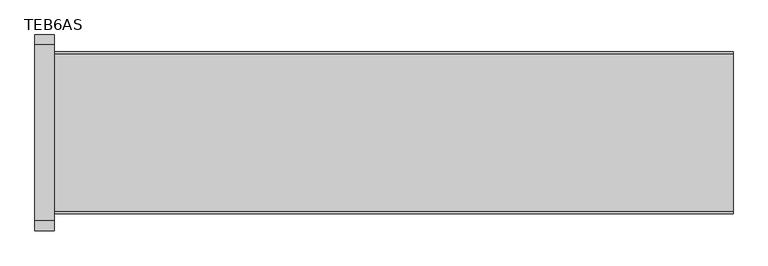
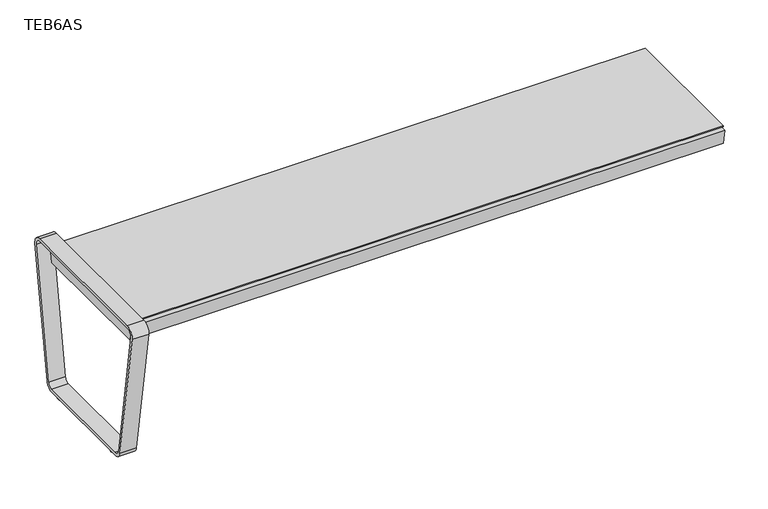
"""IFC4 building model written with IfcOpenShell, lengths in millimetres: furniture geometry, Stance_HC-Terrace-Straight_Bench_Steel : TEB6AS."""

from ifc_helpers import new_model, si_unit, point, frame, frame_2d, origin, origin_with_axes, place, context, project, spatial, polyline, circle_curve, trimmed, segment, composite_curve, outline, extrude, source, transform, mapped, element, save


def teb6as_fcf579d4(model_context):
    return source(origin(), model_context, "Body", "SweptSolid", [
        extrude(outline(polyline([(1455.7375, -50.90414), (1455.7375, -467.25586), (1366.8375, -467.25586), (1366.8375, -50.90414), (1455.7375, -50.90414)])), frame((0.0, 0.0, 432.435), z_axis=(0.0, 0.0, 1.0), x_axis=(1.0, 0.0, 0.0)), (0.0, 0.0, 1.0), 3.175),
        extrude(outline(composite_curve([segment(polyline([(-467.25586, 432.435), (-50.90414, 432.435), (-57.0623598, 397.51)]), True, "CONTINUOUS"), segment(trimmed(circle_curve(frame_2d((-259.08, 1997.8972816)), 1613.0872816), [point((-57.0623598, 397.51))], [point((-461.0976402, 397.51))], False, "CARTESIAN"), True, "CONTINUOUS"), segment(polyline([(-461.0976402, 397.51), (-467.25586, 432.435)]), True, "CONTINUOUS")], self_intersect=False)), frame((1408.8999, 0.0, 0.0), z_axis=(1.0, 0.0, 0.0), x_axis=(0.0, 1.0, 0.0)), (0.0, 0.0, 1.0), 4.7752),
        extrude(outline(polyline([(1219.2, -50.90414), (1219.2, -467.25586), (1130.3, -467.25586), (1130.3, -50.90414), (1219.2, -50.90414)])), frame((0.0, 0.0, 432.435), z_axis=(0.0, 0.0, 1.0), x_axis=(1.0, 0.0, 0.0)), (0.0, 0.0, 1.0), 3.175),
        extrude(outline(composite_curve([segment(polyline([(-467.25586, 432.435), (-50.90414, 432.435), (-57.0623598, 397.51)]), True, "CONTINUOUS"), segment(trimmed(circle_curve(frame_2d((-259.08, 1997.8972816)), 1613.0872816), [point((-57.0623598, 397.51))], [point((-461.0976402, 397.51))], False, "CARTESIAN"), True, "CONTINUOUS"), segment(polyline([(-461.0976402, 397.51), (-467.25586, 432.435)]), True, "CONTINUOUS")], self_intersect=False)), frame((1172.3624, 0.0, 0.0), z_axis=(1.0, 0.0, 0.0), x_axis=(0.0, 1.0, 0.0)), (0.0, 0.0, 1.0), 4.7752),
        extrude(outline(polyline([(982.6625, -50.90414), (982.6625, -467.25586), (893.7625, -467.25586), (893.7625, -50.90414), (982.6625, -50.90414)])), frame((0.0, 0.0, 432.435), z_axis=(0.0, 0.0, 1.0), x_axis=(1.0, 0.0, 0.0)), (0.0, 0.0, 1.0), 3.175),
        extrude(outline(composite_curve([segment(polyline([(-467.25586, 432.435), (-50.90414, 432.435), (-57.0623598, 397.51)]), True, "CONTINUOUS"), segment(trimmed(circle_curve(frame_2d((-259.08, 1997.8972816)), 1613.0872816), [point((-57.0623598, 397.51))], [point((-461.0976402, 397.51))], False, "CARTESIAN"), True, "CONTINUOUS"), segment(polyline([(-461.0976402, 397.51), (-467.25586, 432.435)]), True, "CONTINUOUS")], self_intersect=False)), frame((935.8249, 0.0, 0.0), z_axis=(1.0, 0.0, 0.0), x_axis=(0.0, 1.0, 0.0)), (0.0, 0.0, 1.0), 4.7752),
        extrude(outline(polyline([(746.125, -50.90414), (746.125, -467.25586), (657.225, -467.25586), (657.225, -50.90414), (746.125, -50.90414)])), frame((0.0, 0.0, 432.435), z_axis=(0.0, 0.0, 1.0), x_axis=(1.0, 0.0, 0.0)), (0.0, 0.0, 1.0), 3.175),
        extrude(outline(composite_curve([segment(polyline([(-467.25586, 432.435), (-50.90414, 432.435), (-57.0623598, 397.51)]), True, "CONTINUOUS"), segment(trimmed(circle_curve(frame_2d((-259.08, 1997.8972816)), 1613.0872816), [point((-57.0623598, 397.51))], [point((-461.0976402, 397.51))], False, "CARTESIAN"), True, "CONTINUOUS"), segment(polyline([(-461.0976402, 397.51), (-467.25586, 432.435)]), True, "CONTINUOUS")], self_intersect=False)), frame((699.2874, 0.0, 0.0), z_axis=(1.0, 0.0, 0.0), x_axis=(0.0, 1.0, 0.0)), (0.0, 0.0, 1.0), 4.7752),
        extrude(outline(polyline([(509.5875, -50.90414), (509.5875, -467.25586), (420.6875, -467.25586), (420.6875, -50.90414), (509.5875, -50.90414)])), frame((0.0, 0.0, 432.435), z_axis=(0.0, 0.0, 1.0), x_axis=(1.0, 0.0, 0.0)), (0.0, 0.0, 1.0), 3.175),
        extrude(outline(composite_curve([segment(polyline([(-467.25586, 432.435), (-50.90414, 432.435), (-57.0623598, 397.51)]), True, "CONTINUOUS"), segment(trimmed(circle_curve(frame_2d((-259.08, 1997.8972816)), 1613.0872816), [point((-57.0623598, 397.51))], [point((-461.0976402, 397.51))], False, "CARTESIAN"), True, "CONTINUOUS"), segment(polyline([(-461.0976402, 397.51), (-467.25586, 432.435)]), True, "CONTINUOUS")], self_intersect=False)), frame((462.7499, 0.0, 0.0), z_axis=(1.0, 0.0, 0.0), x_axis=(0.0, 1.0, 0.0)), (0.0, 0.0, 1.0), 4.7752),
        extrude(outline(polyline([(1692.275, -50.90414), (1692.275, -467.25586), (1603.375, -467.25586), (1603.375, -50.90414), (1692.275, -50.90414)])), frame((0.0, 0.0, 432.435), z_axis=(0.0, 0.0, 1.0), x_axis=(1.0, 0.0, 0.0)), (0.0, 0.0, 1.0), 3.175),
        extrude(outline(composite_curve([segment(polyline([(-467.25586, 432.435), (-50.90414, 432.435), (-57.0623598, 397.51)]), True, "CONTINUOUS"), segment(trimmed(circle_curve(frame_2d((-259.08, 1997.8972816)), 1613.0872816), [point((-57.0623598, 397.51))], [point((-461.0976402, 397.51))], False, "CARTESIAN"), True, "CONTINUOUS"), segment(polyline([(-461.0976402, 397.51), (-467.25586, 432.435)]), True, "CONTINUOUS")], self_intersect=False)), frame((1645.4374, 0.0, 0.0), z_axis=(1.0, 0.0, 0.0), x_axis=(0.0, 1.0, 0.0)), (0.0, 0.0, 1.0), 4.7752),
        extrude(outline(polyline([(273.05, -50.90414), (273.05, -467.25586), (184.15, -467.25586), (184.15, -50.90414), (273.05, -50.90414)])), frame((0.0, 0.0, 432.435), z_axis=(0.0, 0.0, 1.0), x_axis=(1.0, 0.0, 0.0)), (0.0, 0.0, 1.0), 3.175),
        extrude(outline(composite_curve([segment(polyline([(-467.25586, 432.435), (-50.90414, 432.435), (-57.0623598, 397.51)]), True, "CONTINUOUS"), segment(trimmed(circle_curve(frame_2d((-259.08, 1997.8972816)), 1613.0872816), [point((-57.0623598, 397.51))], [point((-461.0976402, 397.51))], False, "CARTESIAN"), True, "CONTINUOUS"), segment(polyline([(-461.0976402, 397.51), (-467.25586, 432.435)]), True, "CONTINUOUS")], self_intersect=False)), frame((226.2124, 0.0, 0.0), z_axis=(1.0, 0.0, 0.0), x_axis=(0.0, 1.0, 0.0)), (0.0, 0.0, 1.0), 4.7752),
        extrude(outline(polyline([(-476.5675, 457.8350949), (-41.5925, 457.8350949), (-52.2294419, 397.51), (-465.9305581, 397.51), (-476.5675, 457.8350949)])), frame((22.225, 0.0, 0.0), z_axis=(1.0, 0.0, 0.0), x_axis=(0.0, 1.0, 0.0)), (0.0, 0.0, 1.0), 6.35),
        extrude(outline(composite_curve([segment(trimmed(circle_curve(frame_2d((25.4, -399.75536)), 22.225), [point((3.175, -399.75536))], [point((47.625, -399.75536))], False, "CARTESIAN"), True, "CONTINUOUS"), segment(trimmed(circle_curve(frame_2d((25.4, -399.75536)), 22.225), [point((47.625, -399.75536))], [point((3.175, -399.75536))], False, "CARTESIAN"), True, "CONTINUOUS")], self_intersect=False)), origin_with_axes(), (0.0, 0.0, 1.0), 6.35),
        extrude(outline(composite_curve([segment(trimmed(circle_curve(frame_2d((25.4, -118.40464)), 22.225), [point((3.175, -118.40464))], [point((47.625, -118.40464))], False, "CARTESIAN"), True, "CONTINUOUS"), segment(trimmed(circle_curve(frame_2d((25.4, -118.40464)), 22.225), [point((47.625, -118.40464))], [point((3.175, -118.40464))], False, "CARTESIAN"), True, "CONTINUOUS")], self_intersect=False)), origin_with_axes(), (0.0, 0.0, 1.0), 6.35),
        extrude(outline(composite_curve([segment(polyline([(-493.0697614, 467.3600949), (-25.0902386, 467.3600949)]), True, "CONTINUOUS"), segment(trimmed(circle_curve(frame_2d((-25.0902386, 441.96)), 25.4000949), [point((-25.0902386, 467.3600949))], [point((-0.002861, 437.9865497))], False, "CARTESIAN"), True, "CONTINUOUS"), segment(polyline([(-0.002861, 437.9865497), (-64.9737422, 27.7765497)]), True, "CONTINUOUS"), segment(trimmed(circle_curve(frame_2d((-90.0611198, 31.75)), 25.4000949), [point((-64.9737422, 27.7765497))], [point((-90.0611198, 6.3499051))], False, "CARTESIAN"), True, "CONTINUOUS"), segment(polyline([(-90.0611198, 6.3499051), (-428.0988802, 6.3499051)]), True, "CONTINUOUS"), segment(trimmed(circle_curve(frame_2d((-428.0988802, 31.75)), 25.4000949), [point((-428.0988802, 6.3499051))], [point((-453.1862578, 27.7765497))], False, "CARTESIAN"), True, "CONTINUOUS"), segment(polyline([(-453.1862578, 27.7765497), (-518.157139, 437.9865497)]), True, "CONTINUOUS"), segment(trimmed(circle_curve(frame_2d((-493.0697614, 441.96)), 25.4000949), [point((-518.157139, 437.9865497))], [point((-493.0697614, 467.3600949))], False, "CARTESIAN"), True, "CONTINUOUS")], self_intersect=False), holes=[composite_curve([segment(polyline([(-74.3814737, 29.266588), (-9.4105924, 439.476588)]), True, "CONTINUOUS"), segment(trimmed(circle_curve(frame_2d((-25.0902386, 441.96)), 15.8750949), [point((-9.4105924, 439.476588))], [point((-25.0902386, 457.8350949))], True, "CARTESIAN"), True, "CONTINUOUS"), segment(polyline([(-25.0902386, 457.8350949), (-493.0697614, 457.8350949)]), True, "CONTINUOUS"), segment(trimmed(circle_curve(frame_2d((-493.0697614, 441.96)), 15.8750949), [point((-493.0697614, 457.8350949))], [point((-508.7494076, 439.476588))], True, "CARTESIAN"), True, "CONTINUOUS"), segment(polyline([(-508.7494076, 439.476588), (-443.7785263, 29.266588)]), True, "CONTINUOUS"), segment(trimmed(circle_curve(frame_2d((-428.0988802, 31.75)), 15.8750949), [point((-443.7785263, 29.266588))], [point((-428.0988802, 15.8749051))], True, "CARTESIAN"), True, "CONTINUOUS"), segment(polyline([(-428.0988802, 15.8749051), (-90.0611198, 15.8749051)]), True, "CONTINUOUS"), segment(trimmed(circle_curve(frame_2d((-90.0611198, 31.75)), 15.8750949), [point((-90.0611198, 15.8749051))], [point((-74.3814737, 29.266588))], True, "CARTESIAN"), True, "CONTINUOUS")], self_intersect=False)]), frame((0.0, 0.0, 0.0), z_axis=(1.0, 0.0, 0.0), x_axis=(0.0, 1.0, 0.0)), (0.0, 0.0, 1.0), 50.8),
        extrude(outline(polyline([(1851.025, -51.1175), (1851.025, -467.0425), (28.575, -467.0425), (28.575, -51.1175), (1851.025, -51.1175)])), frame((0.0, 0.0, 451.485), z_axis=(0.0, 0.0, 1.0), x_axis=(1.0, 0.0, 0.0)), (0.0, 0.0, 1.0), 3.175),
        extrude(outline(polyline([(-57.0610609, 397.510164), (-461.0989391, 397.510164), (-467.2574614, 432.4368793), (-50.9025386, 432.4368793), (-57.0610609, 397.510164)])), frame((1846.2625, 0.0, 0.0), z_axis=(1.0, 0.0, 0.0), x_axis=(0.0, 1.0, 0.0)), (0.0, 0.0, 1.0), 4.7625),
        extrude(outline(polyline([(-57.0610609, 397.510164), (-461.0989391, 397.510164), (-467.2574614, 432.4368793), (-50.9025386, 432.4368793), (-57.0610609, 397.510164)])), frame((28.575, 0.0, 0.0), z_axis=(1.0, 0.0, 0.0), x_axis=(0.0, 1.0, 0.0)), (0.0, 0.0, 1.0), 4.7625),
        extrude(outline(polyline([(-474.3310721, 445.1343772), (-448.9310721, 445.1343772), (-448.9310721, 440.3718772), (-468.6553456, 440.3718772), (-461.0976402, 397.51), (-465.7877871, 396.6830006), (-474.3310721, 445.1343772)])), frame((28.575, 0.0, 0.0), z_axis=(1.0, 0.0, 0.0), x_axis=(0.0, 1.0, 0.0)), (0.0, 0.0, 1.0), 1822.45),
        extrude(outline(polyline([(-43.8289279, 445.1343772), (-52.3722129, 396.6830006), (-57.0623598, 397.51), (-49.5046544, 440.3718772), (-69.2289279, 440.3718772), (-69.2289279, 445.1343772), (-43.8289279, 445.1343772)])), frame((28.575, 0.0, 0.0), z_axis=(1.0, 0.0, 0.0), x_axis=(0.0, 1.0, 0.0)), (0.0, 0.0, 1.0), 1822.45),
    ])


if __name__ == "__main__":
    model = new_model("IFC4")
    model_context = context("Model", 3, world=origin())
    ifc_project = project(units=[si_unit("LENGTHUNIT", "METRE", prefix="MILLI")], contexts=[model_context])
    site = spatial("IfcSite", under=ifc_project)
    building = spatial("IfcBuilding", under=site)
    placement = place(None, origin())
    teb6as_shape = teb6as_fcf579d4(model_context)
    element("IfcFurniture", 1, ObjectType="Stance_HC-Terrace-Straight_Bench_Steel : TEB6AS", at=placement, inside=building, context=model_context, shape_type="MappedRepresentation", body=[
        mapped(teb6as_shape, transform((0.0, 0.0, 0.0), x_axis=(1.0, 0.0, 0.0), y_axis=(0.0, 1.0, 0.0), z_axis=(0.0, 0.0, 1.0))),
    ])
    save(model, "model.ifc")
